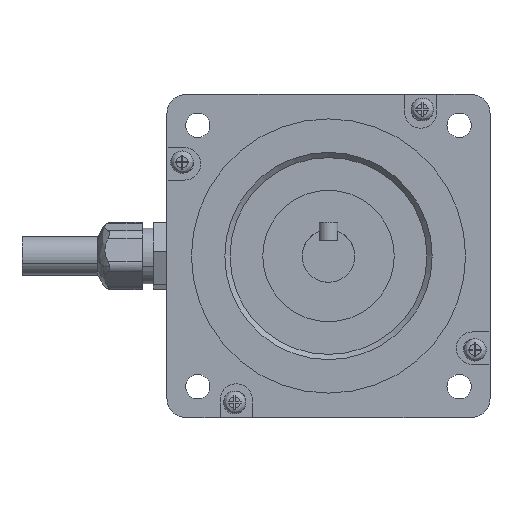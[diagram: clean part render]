
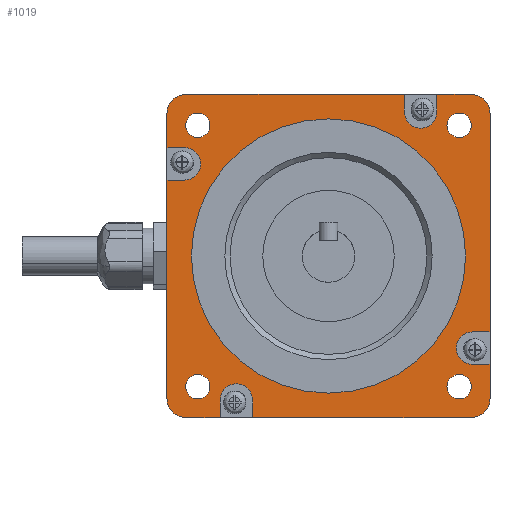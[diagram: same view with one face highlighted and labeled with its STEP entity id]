
A CAD part, front view. The second image highlights one B-rep face of the part: STEP entity #1019.
In plain terms, the highlighted planar face has unit normal (0, -1, 0).
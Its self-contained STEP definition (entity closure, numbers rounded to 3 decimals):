
#330=FACE_BOUND('',#1684,.T.);
#331=FACE_BOUND('',#1685,.T.);
#332=FACE_BOUND('',#1686,.T.);
#333=FACE_BOUND('',#1687,.T.);
#334=FACE_BOUND('',#1688,.T.);
#335=FACE_BOUND('',#1689,.T.);
#770=CIRCLE('',#5348,4.3);
#771=CIRCLE('',#5349,5.);
#772=CIRCLE('',#5350,4.3);
#773=CIRCLE('',#5351,5.);
#774=CIRCLE('',#5352,4.3);
#775=CIRCLE('',#5353,5.);
#776=CIRCLE('',#5354,4.3);
#777=CIRCLE('',#5355,5.);
#778=CIRCLE('',#5356,3.25);
#779=CIRCLE('',#5357,3.25);
#780=CIRCLE('',#5358,3.25);
#781=CIRCLE('',#5359,3.25);
#782=CIRCLE('',#5360,36.5);
#1019=ADVANCED_FACE('',(#330,#331,#332,#333,#334,#335),#1200,.T.);
#1200=PLANE('',#5361);
#1684=EDGE_LOOP('',(#2823,#2824,#2825,#2826,#2827,#2828,#2829,#2830,#2831,
#2832,#2833,#2834,#2835,#2836,#2837,#2838,#2839,#2840,#2841,#2842,#2843,
#2844,#2845,#2846));
#1685=EDGE_LOOP('',(#2847));
#1686=EDGE_LOOP('',(#2848));
#1687=EDGE_LOOP('',(#2849));
#1688=EDGE_LOOP('',(#2850));
#1689=EDGE_LOOP('',(#2851));
#2823=ORIENTED_EDGE('',*,*,#4102,.F.);
#2824=ORIENTED_EDGE('',*,*,#4103,.F.);
#2825=ORIENTED_EDGE('',*,*,#4104,.F.);
#2826=ORIENTED_EDGE('',*,*,#4040,.T.);
#2827=ORIENTED_EDGE('',*,*,#4105,.T.);
#2828=ORIENTED_EDGE('',*,*,#4046,.T.);
#2829=ORIENTED_EDGE('',*,*,#4106,.F.);
#2830=ORIENTED_EDGE('',*,*,#4107,.F.);
#2831=ORIENTED_EDGE('',*,*,#4108,.F.);
#2832=ORIENTED_EDGE('',*,*,#4042,.T.);
#2833=ORIENTED_EDGE('',*,*,#4109,.T.);
#2834=ORIENTED_EDGE('',*,*,#4070,.T.);
#2835=ORIENTED_EDGE('',*,*,#4110,.F.);
#2836=ORIENTED_EDGE('',*,*,#4111,.F.);
#2837=ORIENTED_EDGE('',*,*,#4112,.F.);
#2838=ORIENTED_EDGE('',*,*,#4066,.T.);
#2839=ORIENTED_EDGE('',*,*,#4113,.T.);
#2840=ORIENTED_EDGE('',*,*,#4056,.T.);
#2841=ORIENTED_EDGE('',*,*,#4114,.F.);
#2842=ORIENTED_EDGE('',*,*,#4115,.F.);
#2843=ORIENTED_EDGE('',*,*,#4116,.F.);
#2844=ORIENTED_EDGE('',*,*,#4064,.T.);
#2845=ORIENTED_EDGE('',*,*,#4117,.T.);
#2846=ORIENTED_EDGE('',*,*,#4032,.T.);
#2847=ORIENTED_EDGE('',*,*,#4118,.F.);
#2848=ORIENTED_EDGE('',*,*,#4119,.F.);
#2849=ORIENTED_EDGE('',*,*,#4120,.F.);
#2850=ORIENTED_EDGE('',*,*,#4121,.F.);
#2851=ORIENTED_EDGE('',*,*,#4122,.F.);
#3425=VERTEX_POINT('',#8441);
#3426=VERTEX_POINT('',#8443);
#3433=VERTEX_POINT('',#8457);
#3434=VERTEX_POINT('',#8459);
#3435=VERTEX_POINT('',#8463);
#3436=VERTEX_POINT('',#8464);
#3439=VERTEX_POINT('',#8470);
#3440=VERTEX_POINT('',#8472);
#3449=VERTEX_POINT('',#8491);
#3450=VERTEX_POINT('',#8493);
#3457=VERTEX_POINT('',#8507);
#3458=VERTEX_POINT('',#8509);
#3459=VERTEX_POINT('',#8513);
#3460=VERTEX_POINT('',#8514);
#3463=VERTEX_POINT('',#8520);
#3464=VERTEX_POINT('',#8522);
#3491=VERTEX_POINT('',#8583);
#3492=VERTEX_POINT('',#8585);
#3493=VERTEX_POINT('',#8589);
#3494=VERTEX_POINT('',#8591);
#3495=VERTEX_POINT('',#8595);
#3496=VERTEX_POINT('',#8597);
#3497=VERTEX_POINT('',#8601);
#3498=VERTEX_POINT('',#8603);
#3499=VERTEX_POINT('',#8607);
#3500=VERTEX_POINT('',#8609);
#3501=VERTEX_POINT('',#8611);
#3502=VERTEX_POINT('',#8613);
#3503=VERTEX_POINT('',#8615);
#4032=EDGE_CURVE('',#3426,#3425,#4495,.T.);
#4040=EDGE_CURVE('',#3434,#3433,#4503,.T.);
#4042=EDGE_CURVE('',#3435,#3436,#4505,.T.);
#4046=EDGE_CURVE('',#3440,#3439,#4509,.T.);
#4056=EDGE_CURVE('',#3450,#3449,#4519,.T.);
#4064=EDGE_CURVE('',#3458,#3457,#4527,.T.);
#4066=EDGE_CURVE('',#3459,#3460,#4529,.T.);
#4070=EDGE_CURVE('',#3464,#3463,#4533,.T.);
#4102=EDGE_CURVE('',#3491,#3425,#4549,.T.);
#4103=EDGE_CURVE('',#3492,#3491,#770,.T.);
#4104=EDGE_CURVE('',#3434,#3492,#4550,.T.);
#4105=EDGE_CURVE('',#3433,#3440,#771,.T.);
#4106=EDGE_CURVE('',#3493,#3439,#4551,.T.);
#4107=EDGE_CURVE('',#3494,#3493,#772,.T.);
#4108=EDGE_CURVE('',#3435,#3494,#4552,.T.);
#4109=EDGE_CURVE('',#3436,#3464,#773,.T.);
#4110=EDGE_CURVE('',#3495,#3463,#4553,.T.);
#4111=EDGE_CURVE('',#3496,#3495,#774,.T.);
#4112=EDGE_CURVE('',#3459,#3496,#4554,.T.);
#4113=EDGE_CURVE('',#3460,#3450,#775,.T.);
#4114=EDGE_CURVE('',#3497,#3449,#4555,.T.);
#4115=EDGE_CURVE('',#3498,#3497,#776,.T.);
#4116=EDGE_CURVE('',#3458,#3498,#4556,.T.);
#4117=EDGE_CURVE('',#3457,#3426,#777,.T.);
#4118=EDGE_CURVE('',#3499,#3499,#778,.T.);
#4119=EDGE_CURVE('',#3500,#3500,#779,.T.);
#4120=EDGE_CURVE('',#3501,#3501,#780,.T.);
#4121=EDGE_CURVE('',#3502,#3502,#781,.T.);
#4122=EDGE_CURVE('',#3503,#3503,#782,.T.);
#4495=LINE('',#8442,#4892);
#4503=LINE('',#8458,#4900);
#4505=LINE('',#8462,#4902);
#4509=LINE('',#8471,#4906);
#4519=LINE('',#8492,#4916);
#4527=LINE('',#8508,#4924);
#4529=LINE('',#8512,#4926);
#4533=LINE('',#8521,#4930);
#4549=LINE('',#8582,#4946);
#4550=LINE('',#8586,#4947);
#4551=LINE('',#8588,#4948);
#4552=LINE('',#8592,#4949);
#4553=LINE('',#8594,#4950);
#4554=LINE('',#8598,#4951);
#4555=LINE('',#8600,#4952);
#4556=LINE('',#8604,#4953);
#4892=VECTOR('',#6437,1.);
#4900=VECTOR('',#6445,1.);
#4902=VECTOR('',#6449,1.);
#4906=VECTOR('',#6453,1.);
#4916=VECTOR('',#6465,1.);
#4924=VECTOR('',#6473,1.);
#4926=VECTOR('',#6477,1.);
#4930=VECTOR('',#6481,1.);
#4946=VECTOR('',#6533,1.);
#4947=VECTOR('',#6536,1.);
#4948=VECTOR('',#6539,1.);
#4949=VECTOR('',#6542,1.);
#4950=VECTOR('',#6545,1.);
#4951=VECTOR('',#6548,1.);
#4952=VECTOR('',#6551,1.);
#4953=VECTOR('',#6554,1.);
#5348=AXIS2_PLACEMENT_3D('',#8584,#6534,#6535);
#5349=AXIS2_PLACEMENT_3D('',#8587,#6537,#6538);
#5350=AXIS2_PLACEMENT_3D('',#8590,#6540,#6541);
#5351=AXIS2_PLACEMENT_3D('',#8593,#6543,#6544);
#5352=AXIS2_PLACEMENT_3D('',#8596,#6546,#6547);
#5353=AXIS2_PLACEMENT_3D('',#8599,#6549,#6550);
#5354=AXIS2_PLACEMENT_3D('',#8602,#6552,#6553);
#5355=AXIS2_PLACEMENT_3D('',#8605,#6555,#6556);
#5356=AXIS2_PLACEMENT_3D('',#8606,#6557,#6558);
#5357=AXIS2_PLACEMENT_3D('',#8608,#6559,#6560);
#5358=AXIS2_PLACEMENT_3D('',#8610,#6561,#6562);
#5359=AXIS2_PLACEMENT_3D('',#8612,#6563,#6564);
#5360=AXIS2_PLACEMENT_3D('',#8614,#6565,#6566);
#5361=AXIS2_PLACEMENT_3D('',#8616,#6567,#6568);
#6437=DIRECTION('',(0.,0.,1.));
#6445=DIRECTION('',(0.,0.,1.));
#6449=DIRECTION('',(-1.,0.,0.));
#6453=DIRECTION('',(-1.,0.,0.));
#6465=DIRECTION('',(1.,0.,0.));
#6473=DIRECTION('',(1.,0.,0.));
#6477=DIRECTION('',(0.,0.,-1.));
#6481=DIRECTION('',(0.,0.,-1.));
#6533=DIRECTION('',(1.,0.,0.));
#6534=DIRECTION('',(0.,-1.,0.));
#6535=DIRECTION('',(-1.,0.,0.));
#6536=DIRECTION('',(-1.,0.,0.));
#6537=DIRECTION('',(0.,-1.,0.));
#6538=DIRECTION('',(0.,0.,-1.));
#6539=DIRECTION('',(0.,0.,1.));
#6540=DIRECTION('',(0.,-1.,0.));
#6541=DIRECTION('',(0.,0.,-1.));
#6542=DIRECTION('',(0.,0.,-1.));
#6543=DIRECTION('',(0.,-1.,0.));
#6544=DIRECTION('',(0.,0.,-1.));
#6545=DIRECTION('',(-1.,0.,0.));
#6546=DIRECTION('',(0.,-1.,0.));
#6547=DIRECTION('',(1.,0.,0.));
#6548=DIRECTION('',(1.,0.,0.));
#6549=DIRECTION('',(0.,-1.,0.));
#6550=DIRECTION('',(0.,0.,-1.));
#6551=DIRECTION('',(0.,0.,-1.));
#6552=DIRECTION('',(0.,-1.,0.));
#6553=DIRECTION('',(0.,0.,1.));
#6554=DIRECTION('',(0.,0.,1.));
#6555=DIRECTION('',(0.,-1.,0.));
#6556=DIRECTION('',(0.,0.,-1.));
#6557=DIRECTION('',(0.,-1.,0.));
#6558=DIRECTION('',(0.,0.,-1.));
#6559=DIRECTION('',(0.,-1.,0.));
#6560=DIRECTION('',(0.,0.,-1.));
#6561=DIRECTION('',(0.,-1.,0.));
#6562=DIRECTION('',(0.,0.,-1.));
#6563=DIRECTION('',(0.,-1.,0.));
#6564=DIRECTION('',(0.,0.,-1.));
#6565=DIRECTION('',(0.,-1.,0.));
#6566=DIRECTION('',(0.,0.,1.));
#6567=DIRECTION('',(0.,-1.,0.));
#6568=DIRECTION('',(0.,0.,-1.));
#8441=CARTESIAN_POINT('',(43.,-17.,-28.83));
#8442=CARTESIAN_POINT('',(43.,-17.,-43.));
#8443=CARTESIAN_POINT('',(43.,-17.,-38.));
#8457=CARTESIAN_POINT('',(43.,-17.,38.));
#8458=CARTESIAN_POINT('',(43.,-17.,-43.));
#8459=CARTESIAN_POINT('',(43.,-17.,-20.23));
#8462=CARTESIAN_POINT('',(43.,-17.,43.));
#8463=CARTESIAN_POINT('',(20.23,-17.,43.));
#8464=CARTESIAN_POINT('',(-38.,-17.,43.));
#8470=CARTESIAN_POINT('',(28.83,-17.,43.));
#8471=CARTESIAN_POINT('',(43.,-17.,43.));
#8472=CARTESIAN_POINT('',(38.,-17.,43.));
#8491=CARTESIAN_POINT('',(-28.83,-17.,-43.));
#8492=CARTESIAN_POINT('',(-43.,-17.,-43.));
#8493=CARTESIAN_POINT('',(-38.,-17.,-43.));
#8507=CARTESIAN_POINT('',(38.,-17.,-43.));
#8508=CARTESIAN_POINT('',(-43.,-17.,-43.));
#8509=CARTESIAN_POINT('',(-20.23,-17.,-43.));
#8512=CARTESIAN_POINT('',(-43.,-17.,43.));
#8513=CARTESIAN_POINT('',(-43.,-17.,20.23));
#8514=CARTESIAN_POINT('',(-43.,-17.,-38.));
#8520=CARTESIAN_POINT('',(-43.,-17.,28.83));
#8521=CARTESIAN_POINT('',(-43.,-17.,43.));
#8522=CARTESIAN_POINT('',(-43.,-17.,38.));
#8582=CARTESIAN_POINT('',(38.32,-17.,-28.83));
#8583=CARTESIAN_POINT('',(38.32,-17.,-28.83));
#8584=CARTESIAN_POINT('',(38.32,-17.,-24.53));
#8585=CARTESIAN_POINT('',(38.32,-17.,-20.23));
#8586=CARTESIAN_POINT('',(51.119,-17.,-20.23));
#8587=CARTESIAN_POINT('',(38.,-17.,38.));
#8588=CARTESIAN_POINT('',(28.83,-17.,38.32));
#8589=CARTESIAN_POINT('',(28.83,-17.,38.32));
#8590=CARTESIAN_POINT('',(24.53,-17.,38.32));
#8591=CARTESIAN_POINT('',(20.23,-17.,38.32));
#8592=CARTESIAN_POINT('',(20.23,-17.,51.119));
#8593=CARTESIAN_POINT('',(-38.,-17.,38.));
#8594=CARTESIAN_POINT('',(-38.32,-17.,28.83));
#8595=CARTESIAN_POINT('',(-38.32,-17.,28.83));
#8596=CARTESIAN_POINT('',(-38.32,-17.,24.53));
#8597=CARTESIAN_POINT('',(-38.32,-17.,20.23));
#8598=CARTESIAN_POINT('',(-51.119,-17.,20.23));
#8599=CARTESIAN_POINT('',(-38.,-17.,-38.));
#8600=CARTESIAN_POINT('',(-28.83,-17.,-38.32));
#8601=CARTESIAN_POINT('',(-28.83,-17.,-38.32));
#8602=CARTESIAN_POINT('',(-24.53,-17.,-38.32));
#8603=CARTESIAN_POINT('',(-20.23,-17.,-38.32));
#8604=CARTESIAN_POINT('',(-20.23,-17.,-51.119));
#8605=CARTESIAN_POINT('',(38.,-17.,-38.));
#8606=CARTESIAN_POINT('',(-34.8,-17.,-34.8));
#8607=CARTESIAN_POINT('',(-34.8,-17.,-38.05));
#8608=CARTESIAN_POINT('',(-34.8,-17.,34.8));
#8609=CARTESIAN_POINT('',(-34.8,-17.,31.55));
#8610=CARTESIAN_POINT('',(34.8,-17.,34.8));
#8611=CARTESIAN_POINT('',(34.8,-17.,31.55));
#8612=CARTESIAN_POINT('',(34.8,-17.,-34.8));
#8613=CARTESIAN_POINT('',(34.8,-17.,-38.05));
#8614=CARTESIAN_POINT('',(0.,-17.,0.));
#8615=CARTESIAN_POINT('',(0.,-17.,36.5));
#8616=CARTESIAN_POINT('',(0.,-17.,0.));
